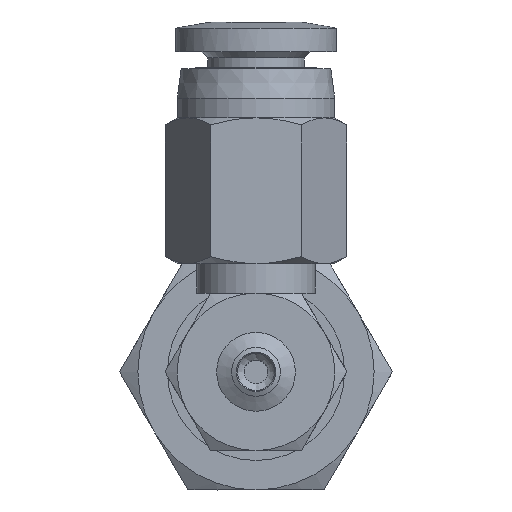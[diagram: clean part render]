
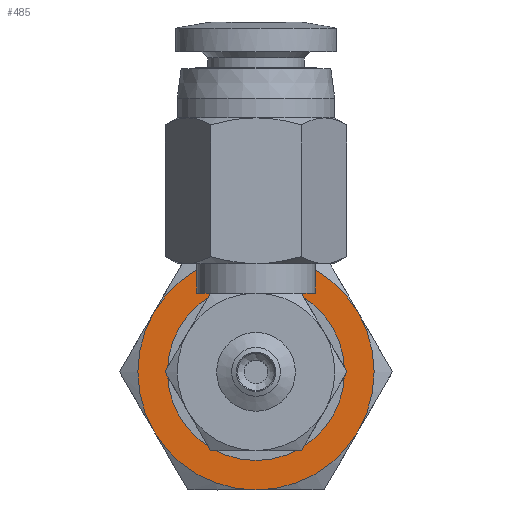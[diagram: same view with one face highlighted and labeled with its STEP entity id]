
A CAD part, front view. The second image highlights one B-rep face of the part: STEP entity #485.
In plain terms, the highlighted planar face has unit normal (0, -1, 0) as drawn and (-1, 0, 0) by its records, which use the part's own axes.
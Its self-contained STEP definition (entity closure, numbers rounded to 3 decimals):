
#485=ADVANCED_FACE('',(#687,#688),#689,.F.);
#687=FACE_BOUND('',#1090,.T.);
#688=FACE_OUTER_BOUND('',#1091,.T.);
#689=PLANE('',#1092);
#1090=EDGE_LOOP('',(#1872));
#1091=EDGE_LOOP('',(#1873,#1874,#1875,#1876,#1877,#1878));
#1092=AXIS2_PLACEMENT_3D('',#1879,#1880,#1881);
#1872=ORIENTED_EDGE('',*,*,#2806,.T.);
#1873=ORIENTED_EDGE('',*,*,#2807,.F.);
#1874=ORIENTED_EDGE('',*,*,#2788,.F.);
#1875=ORIENTED_EDGE('',*,*,#2786,.F.);
#1876=ORIENTED_EDGE('',*,*,#2774,.F.);
#1877=ORIENTED_EDGE('',*,*,#2773,.F.);
#1878=ORIENTED_EDGE('',*,*,#2805,.F.);
#1879=CARTESIAN_POINT('',(0.,0.0,0.0));
#1880=DIRECTION('',(1.0,0.0,0.0));
#1881=DIRECTION('',(0.0,1.0,0.0));
#2773=EDGE_CURVE('',#3090,#3093,#3095,.T.);
#2774=EDGE_CURVE('',#3093,#3096,#3097,.T.);
#2786=EDGE_CURVE('',#3096,#3113,#3116,.T.);
#2788=EDGE_CURVE('',#3113,#3118,#3119,.T.);
#2805=EDGE_CURVE('',#3139,#3090,#3144,.T.);
#2806=EDGE_CURVE('',#3145,#3145,#3146,.T.);
#2807=EDGE_CURVE('',#3118,#3139,#3147,.T.);
#3090=VERTEX_POINT('',#3652);
#3093=VERTEX_POINT('',#3675);
#3095=CIRCLE('',#3687,6.0);
#3096=VERTEX_POINT('',#3688);
#3097=CIRCLE('',#3689,6.0);
#3113=VERTEX_POINT('',#3758);
#3116=CIRCLE('',#3781,6.0);
#3118=VERTEX_POINT('',#3793);
#3119=CIRCLE('',#3794,6.0);
#3139=VERTEX_POINT('',#3875);
#3144=CIRCLE('',#3900,6.0);
#3145=VERTEX_POINT('',#3901);
#3146=CIRCLE('',#3902,4.0);
#3147=CIRCLE('',#3903,6.0);
#3652=CARTESIAN_POINT('',(0.,0.0,6.0));
#3675=CARTESIAN_POINT('',(0.,-5.196,3.0));
#3687=AXIS2_PLACEMENT_3D('',#4775,#4776,#4777);
#3688=CARTESIAN_POINT('',(0.,-5.196,-3.0));
#3689=AXIS2_PLACEMENT_3D('',#4778,#4779,#4780);
#3758=CARTESIAN_POINT('',(0.,0.0,-6.0));
#3781=AXIS2_PLACEMENT_3D('',#4787,#4788,#4789);
#3793=CARTESIAN_POINT('',(0.,5.196,-3.0));
#3794=AXIS2_PLACEMENT_3D('',#4790,#4791,#4792);
#3875=CARTESIAN_POINT('',(0.,5.196,3.0));
#3900=AXIS2_PLACEMENT_3D('',#4815,#4816,#4817);
#3901=CARTESIAN_POINT('',(0.,0.0,-4.0));
#3902=AXIS2_PLACEMENT_3D('',#4818,#4819,#4820);
#3903=AXIS2_PLACEMENT_3D('',#4821,#4822,#4823);
#4775=CARTESIAN_POINT('',(0.,0.0,0.0));
#4776=DIRECTION('',(1.0,0.0,0.0));
#4777=DIRECTION('',(0.0,0.0,-1.0));
#4778=CARTESIAN_POINT('',(0.,0.0,0.0));
#4779=DIRECTION('',(1.0,0.0,0.0));
#4780=DIRECTION('',(0.0,0.0,-1.0));
#4787=CARTESIAN_POINT('',(0.,0.0,0.0));
#4788=DIRECTION('',(1.0,0.0,0.0));
#4789=DIRECTION('',(0.0,0.0,-1.0));
#4790=CARTESIAN_POINT('',(0.,0.0,0.0));
#4791=DIRECTION('',(1.0,0.0,0.0));
#4792=DIRECTION('',(0.0,0.0,-1.0));
#4815=CARTESIAN_POINT('',(0.,0.0,0.0));
#4816=DIRECTION('',(1.0,0.0,0.0));
#4817=DIRECTION('',(0.0,0.0,-1.0));
#4818=CARTESIAN_POINT('',(0.,0.0,0.0));
#4819=DIRECTION('',(1.0,0.0,0.0));
#4820=DIRECTION('',(0.0,0.0,-1.0));
#4821=CARTESIAN_POINT('',(0.,0.0,0.0));
#4822=DIRECTION('',(1.0,0.0,0.0));
#4823=DIRECTION('',(0.0,0.0,-1.0));
